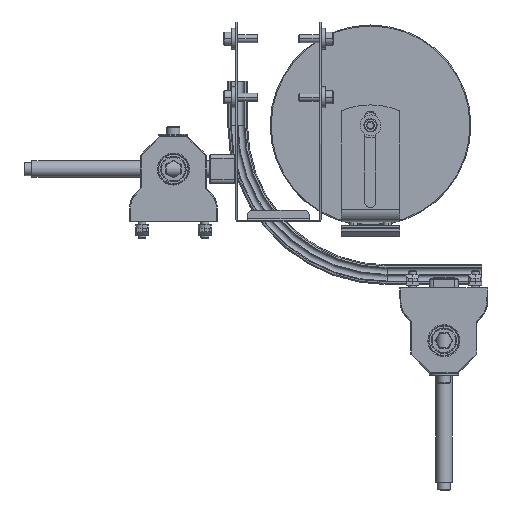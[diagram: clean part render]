
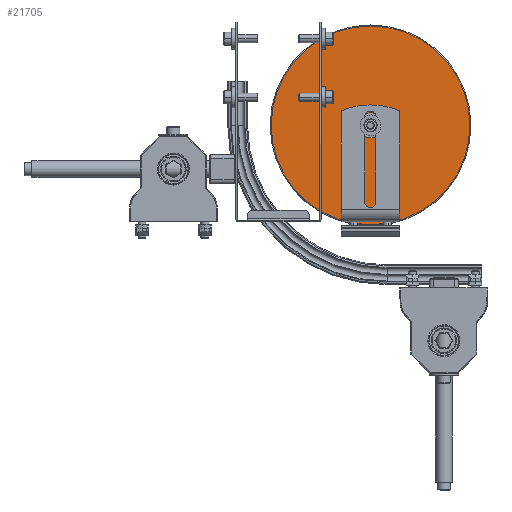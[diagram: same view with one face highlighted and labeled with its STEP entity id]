
A CAD part, front view. The second image highlights one B-rep face of the part: STEP entity #21705.
In plain terms, the highlighted planar face has unit normal (0, -1, 0) as drawn and (0, 1, 0) by its records, which use the part's own axes.
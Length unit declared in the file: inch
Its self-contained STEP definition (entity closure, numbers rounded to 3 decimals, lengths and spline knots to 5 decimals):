
#23 = CIRCLE ( 'NONE', #12626, 2.97 ) ;
#63 = CIRCLE ( 'NONE', #14504, 0.2525 ) ;
#192 = PLANE ( 'NONE',  #8132 ) ;
#596 = DIRECTION ( 'NONE',  ( 0., 0., 1. ) ) ;
#1503 = CIRCLE ( 'NONE', #16423, 0.2525 ) ;
#2469 = ORIENTED_EDGE ( 'NONE', *, *, #7210, .F. ) ;
#4945 = DIRECTION ( 'NONE',  ( 0., 1., 0. ) ) ;
#5608 = ORIENTED_EDGE ( 'NONE', *, *, #9619, .T. ) ;
#6049 = CARTESIAN_POINT ( 'NONE',  ( 0., 0.405, 0. ) ) ;
#6670 = FACE_OUTER_BOUND ( 'NONE', #36537, .T. ) ;
#7210 = EDGE_CURVE ( 'NONE', #22006, #16932, #1503, .T. ) ;
#7237 = CARTESIAN_POINT ( 'NONE',  ( 0., 0.405, 0.2525 ) ) ;
#8132 = AXIS2_PLACEMENT_3D ( 'NONE', #6049, #12425, #9428 ) ;
#9428 = DIRECTION ( 'NONE',  ( 0., 0., 1. ) ) ;
#9619 = EDGE_CURVE ( 'NONE', #39516, #11066, #13011, .T. ) ;
#11066 = VERTEX_POINT ( 'NONE', #35834 ) ;
#11709 = DIRECTION ( 'NONE',  ( 0., 0., 1. ) ) ;
#12425 = DIRECTION ( 'NONE',  ( 0., 1., 0. ) ) ;
#12626 = AXIS2_PLACEMENT_3D ( 'NONE', #29059, #31933, #596 ) ;
#13011 = CIRCLE ( 'NONE', #32306, 2.97 ) ;
#14504 = AXIS2_PLACEMENT_3D ( 'NONE', #23524, #4945, #30003 ) ;
#16423 = AXIS2_PLACEMENT_3D ( 'NONE', #20948, #39706, #11709 ) ;
#16932 = VERTEX_POINT ( 'NONE', #34488 ) ;
#17805 = EDGE_CURVE ( 'NONE', #11066, #39516, #23, .T. ) ;
#18087 = ORIENTED_EDGE ( 'NONE', *, *, #25999, .F. ) ;
#18146 = DIRECTION ( 'NONE',  ( 0., 0., 1. ) ) ;
#20707 = EDGE_LOOP ( 'NONE', ( #2469, #18087 ) ) ;
#20948 = CARTESIAN_POINT ( 'NONE',  ( 0., 0.405, 0. ) ) ;
#21705 = ADVANCED_FACE ( 'NONE', ( #6670, #30449 ), #192, .T. ) ;
#22006 = VERTEX_POINT ( 'NONE', #7237 ) ;
#23524 = CARTESIAN_POINT ( 'NONE',  ( 0., 0.405, 0. ) ) ;
#25999 = EDGE_CURVE ( 'NONE', #16932, #22006, #63, .T. ) ;
#29059 = CARTESIAN_POINT ( 'NONE',  ( 0., 0.405, 0. ) ) ;
#29602 = CARTESIAN_POINT ( 'NONE',  ( 0., 0.405, -2.97 ) ) ;
#30003 = DIRECTION ( 'NONE',  ( 0., 0., 1. ) ) ;
#30342 = CARTESIAN_POINT ( 'NONE',  ( 0., 0.405, 0. ) ) ;
#30449 = FACE_BOUND ( 'NONE', #20707, .T. ) ;
#31933 = DIRECTION ( 'NONE',  ( 0., 1., 0. ) ) ;
#32306 = AXIS2_PLACEMENT_3D ( 'NONE', #30342, #36594, #18146 ) ;
#34488 = CARTESIAN_POINT ( 'NONE',  ( 0., 0.405, -0.2525 ) ) ;
#35834 = CARTESIAN_POINT ( 'NONE',  ( 0., 0.405, 2.97 ) ) ;
#36245 = ORIENTED_EDGE ( 'NONE', *, *, #17805, .T. ) ;
#36537 = EDGE_LOOP ( 'NONE', ( #36245, #5608 ) ) ;
#36594 = DIRECTION ( 'NONE',  ( 0., 1., 0. ) ) ;
#39516 = VERTEX_POINT ( 'NONE', #29602 ) ;
#39706 = DIRECTION ( 'NONE',  ( 0., 1., 0. ) ) ;
